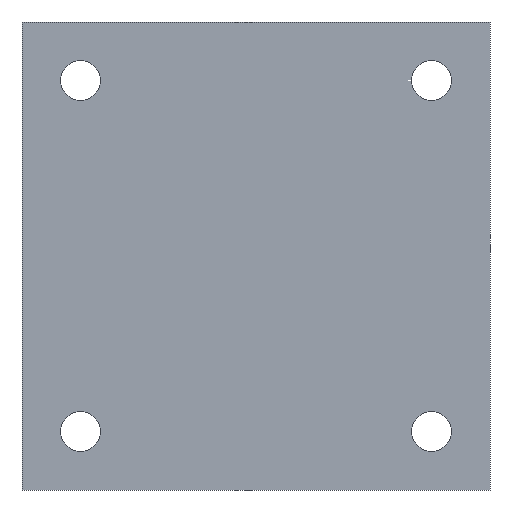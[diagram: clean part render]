
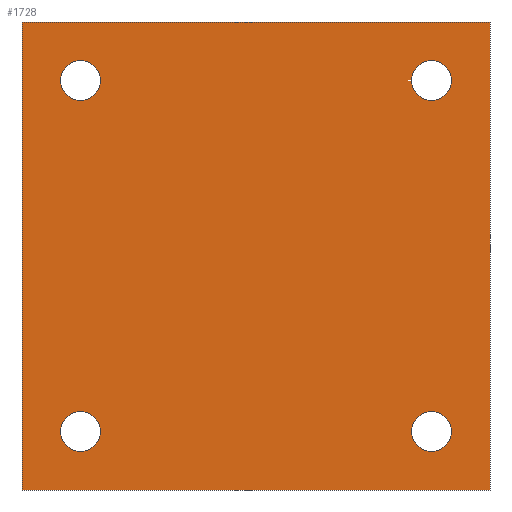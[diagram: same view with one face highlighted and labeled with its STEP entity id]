
A CAD part, front view. The second image highlights one B-rep face of the part: STEP entity #1728.
In plain terms, the highlighted planar face has unit normal (0, -1, 0).
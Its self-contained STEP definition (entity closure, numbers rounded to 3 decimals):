
#7 = DIRECTION ( 'NONE',  ( 0., 0., 1. ) ) ;
#14 = FACE_BOUND ( 'NONE', #56, .T. ) ;
#56 = EDGE_LOOP ( 'NONE', ( #843, #807 ) ) ;
#61 = CARTESIAN_POINT ( 'NONE',  ( -97.994, -20.372, 75. ) ) ;
#72 = CIRCLE ( 'NONE', #1702, 8.5 ) ;
#78 = CARTESIAN_POINT ( 'NONE',  ( 52.006, -20.372, 75. ) ) ;
#82 = VERTEX_POINT ( 'NONE', #344 ) ;
#106 = CIRCLE ( 'NONE', #1504, 8.5 ) ;
#150 = VERTEX_POINT ( 'NONE', #1169 ) ;
#159 = DIRECTION ( 'NONE',  ( 1., 0., 0. ) ) ;
#169 = ORIENTED_EDGE ( 'NONE', *, *, #453, .F. ) ;
#177 = CARTESIAN_POINT ( 'NONE',  ( -97.994, -20.372, 66.5 ) ) ;
#179 = AXIS2_PLACEMENT_3D ( 'NONE', #837, #1684, #1553 ) ;
#186 = CARTESIAN_POINT ( 'NONE',  ( -97.994, -20.372, -83.5 ) ) ;
#212 = ORIENTED_EDGE ( 'NONE', *, *, #1759, .F. ) ;
#223 = VECTOR ( 'NONE', #159, 1000. ) ;
#246 = FACE_BOUND ( 'NONE', #758, .T. ) ;
#254 = AXIS2_PLACEMENT_3D ( 'NONE', #78, #662, #652 ) ;
#280 = CARTESIAN_POINT ( 'NONE',  ( -122.994, -20.372, -100. ) ) ;
#289 = ORIENTED_EDGE ( 'NONE', *, *, #1488, .F. ) ;
#301 = AXIS2_PLACEMENT_3D ( 'NONE', #647, #1188, #765 ) ;
#323 = ORIENTED_EDGE ( 'NONE', *, *, #711, .F. ) ;
#332 = CARTESIAN_POINT ( 'NONE',  ( 52.006, -20.372, 66.5 ) ) ;
#340 = FACE_BOUND ( 'NONE', #508, .T. ) ;
#344 = CARTESIAN_POINT ( 'NONE',  ( 52.006, -20.372, 83.5 ) ) ;
#347 = CARTESIAN_POINT ( 'NONE',  ( 52.006, -20.372, -75. ) ) ;
#348 = EDGE_CURVE ( 'NONE', #1324, #1295, #973, .T. ) ;
#349 = DIRECTION ( 'NONE',  ( 0., 1., 0. ) ) ;
#356 = VERTEX_POINT ( 'NONE', #545 ) ;
#365 = LINE ( 'NONE', #403, #579 ) ;
#390 = DIRECTION ( 'NONE',  ( 0., 0., 1. ) ) ;
#402 = CARTESIAN_POINT ( 'NONE',  ( 77.006, -20.372, 100. ) ) ;
#403 = CARTESIAN_POINT ( 'NONE',  ( -122.994, -20.372, 100. ) ) ;
#453 = EDGE_CURVE ( 'NONE', #939, #1677, #365, .T. ) ;
#508 = EDGE_LOOP ( 'NONE', ( #1231, #1273 ) ) ;
#517 = VERTEX_POINT ( 'NONE', #1692 ) ;
#545 = CARTESIAN_POINT ( 'NONE',  ( 77.006, -20.372, -100. ) ) ;
#562 = CARTESIAN_POINT ( 'NONE',  ( -97.994, -20.372, -75. ) ) ;
#578 = LINE ( 'NONE', #1174, #768 ) ;
#579 = VECTOR ( 'NONE', #390, 1000. ) ;
#595 = FACE_OUTER_BOUND ( 'NONE', #1567, .T. ) ;
#620 = EDGE_LOOP ( 'NONE', ( #1004, #965 ) ) ;
#647 = CARTESIAN_POINT ( 'NONE',  ( 52.006, -20.372, 75. ) ) ;
#652 = DIRECTION ( 'NONE',  ( 0., 0., 1. ) ) ;
#662 = DIRECTION ( 'NONE',  ( 0., 1., 0. ) ) ;
#711 = EDGE_CURVE ( 'NONE', #1677, #150, #1021, .T. ) ;
#713 = AXIS2_PLACEMENT_3D ( 'NONE', #889, #1434, #725 ) ;
#718 = EDGE_CURVE ( 'NONE', #1764, #517, #72, .T. ) ;
#725 = DIRECTION ( 'NONE',  ( 0., 0., -1. ) ) ;
#735 = CARTESIAN_POINT ( 'NONE',  ( -97.994, -20.372, 83.5 ) ) ;
#758 = EDGE_LOOP ( 'NONE', ( #1507, #895 ) ) ;
#765 = DIRECTION ( 'NONE',  ( 0., 0., 1. ) ) ;
#768 = VECTOR ( 'NONE', #1440, 1000. ) ;
#807 = ORIENTED_EDGE ( 'NONE', *, *, #1798, .T. ) ;
#837 = CARTESIAN_POINT ( 'NONE',  ( -97.994, -20.372, 75. ) ) ;
#843 = ORIENTED_EDGE ( 'NONE', *, *, #1432, .T. ) ;
#889 = CARTESIAN_POINT ( 'NONE',  ( 77.006, -20.372, -100. ) ) ;
#890 = DIRECTION ( 'NONE',  ( 0., 1., 0. ) ) ;
#895 = ORIENTED_EDGE ( 'NONE', *, *, #1565, .T. ) ;
#939 = VERTEX_POINT ( 'NONE', #280 ) ;
#946 = EDGE_CURVE ( 'NONE', #1295, #1324, #106, .T. ) ;
#965 = ORIENTED_EDGE ( 'NONE', *, *, #946, .T. ) ;
#973 = CIRCLE ( 'NONE', #1149, 8.5 ) ;
#1004 = ORIENTED_EDGE ( 'NONE', *, *, #348, .T. ) ;
#1021 = LINE ( 'NONE', #1297, #223 ) ;
#1027 = CARTESIAN_POINT ( 'NONE',  ( 52.006, -20.372, -66.5 ) ) ;
#1046 = DIRECTION ( 'NONE',  ( 0., 0., 1. ) ) ;
#1067 = VERTEX_POINT ( 'NONE', #177 ) ;
#1069 = CIRCLE ( 'NONE', #1379, 8.5 ) ;
#1086 = VERTEX_POINT ( 'NONE', #735 ) ;
#1097 = DIRECTION ( 'NONE',  ( 0., 0., 1. ) ) ;
#1109 = CIRCLE ( 'NONE', #301, 8.5 ) ;
#1115 = DIRECTION ( 'NONE',  ( 0., 0., -1. ) ) ;
#1149 = AXIS2_PLACEMENT_3D ( 'NONE', #1657, #1241, #1097 ) ;
#1169 = CARTESIAN_POINT ( 'NONE',  ( 77.006, -20.372, 100. ) ) ;
#1174 = CARTESIAN_POINT ( 'NONE',  ( -122.994, -20.372, -100. ) ) ;
#1188 = DIRECTION ( 'NONE',  ( 0., 1., 0. ) ) ;
#1201 = AXIS2_PLACEMENT_3D ( 'NONE', #61, #349, #1046 ) ;
#1231 = ORIENTED_EDGE ( 'NONE', *, *, #1607, .T. ) ;
#1241 = DIRECTION ( 'NONE',  ( 0., 1., 0. ) ) ;
#1269 = CARTESIAN_POINT ( 'NONE',  ( -122.994, -20.372, 100. ) ) ;
#1273 = ORIENTED_EDGE ( 'NONE', *, *, #1291, .T. ) ;
#1291 = EDGE_CURVE ( 'NONE', #1067, #1086, #1712, .T. ) ;
#1295 = VERTEX_POINT ( 'NONE', #186 ) ;
#1297 = CARTESIAN_POINT ( 'NONE',  ( -122.994, -20.372, 100. ) ) ;
#1302 = VERTEX_POINT ( 'NONE', #332 ) ;
#1321 = DIRECTION ( 'NONE',  ( 0., 0., 1. ) ) ;
#1324 = VERTEX_POINT ( 'NONE', #1333 ) ;
#1333 = CARTESIAN_POINT ( 'NONE',  ( -97.994, -20.372, -66.5 ) ) ;
#1335 = CIRCLE ( 'NONE', #254, 8.5 ) ;
#1352 = LINE ( 'NONE', #402, #1668 ) ;
#1368 = FACE_BOUND ( 'NONE', #620, .T. ) ;
#1379 = AXIS2_PLACEMENT_3D ( 'NONE', #1796, #1518, #1655 ) ;
#1432 = EDGE_CURVE ( 'NONE', #82, #1302, #1335, .T. ) ;
#1434 = DIRECTION ( 'NONE',  ( 0., -1., 0. ) ) ;
#1440 = DIRECTION ( 'NONE',  ( -1., 0., 0. ) ) ;
#1488 = EDGE_CURVE ( 'NONE', #150, #356, #1352, .T. ) ;
#1491 = CIRCLE ( 'NONE', #179, 8.5 ) ;
#1504 = AXIS2_PLACEMENT_3D ( 'NONE', #562, #1674, #7 ) ;
#1507 = ORIENTED_EDGE ( 'NONE', *, *, #718, .T. ) ;
#1518 = DIRECTION ( 'NONE',  ( 0., 1., 0. ) ) ;
#1553 = DIRECTION ( 'NONE',  ( 0., 0., 1. ) ) ;
#1565 = EDGE_CURVE ( 'NONE', #517, #1764, #1069, .T. ) ;
#1567 = EDGE_LOOP ( 'NONE', ( #289, #323, #169, #212 ) ) ;
#1569 = PLANE ( 'NONE',  #713 ) ;
#1607 = EDGE_CURVE ( 'NONE', #1086, #1067, #1491, .T. ) ;
#1655 = DIRECTION ( 'NONE',  ( 0., 0., 1. ) ) ;
#1657 = CARTESIAN_POINT ( 'NONE',  ( -97.994, -20.372, -75. ) ) ;
#1668 = VECTOR ( 'NONE', #1115, 1000. ) ;
#1674 = DIRECTION ( 'NONE',  ( 0., 1., 0. ) ) ;
#1677 = VERTEX_POINT ( 'NONE', #1269 ) ;
#1684 = DIRECTION ( 'NONE',  ( 0., 1., 0. ) ) ;
#1692 = CARTESIAN_POINT ( 'NONE',  ( 52.006, -20.372, -83.5 ) ) ;
#1702 = AXIS2_PLACEMENT_3D ( 'NONE', #347, #890, #1321 ) ;
#1712 = CIRCLE ( 'NONE', #1201, 8.5 ) ;
#1728 = ADVANCED_FACE ( 'NONE', ( #246, #14, #340, #1368, #595 ), #1569, .T. ) ;
#1759 = EDGE_CURVE ( 'NONE', #356, #939, #578, .T. ) ;
#1764 = VERTEX_POINT ( 'NONE', #1027 ) ;
#1796 = CARTESIAN_POINT ( 'NONE',  ( 52.006, -20.372, -75. ) ) ;
#1798 = EDGE_CURVE ( 'NONE', #1302, #82, #1109, .T. ) ;
